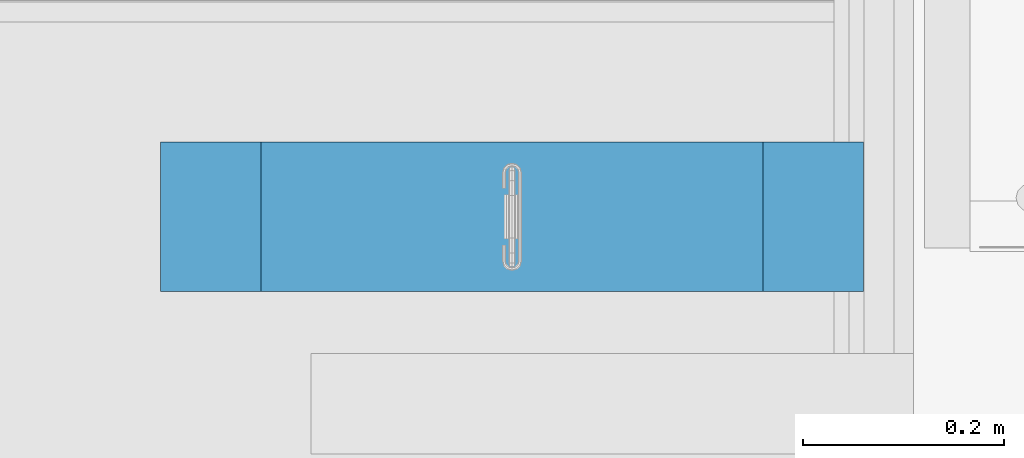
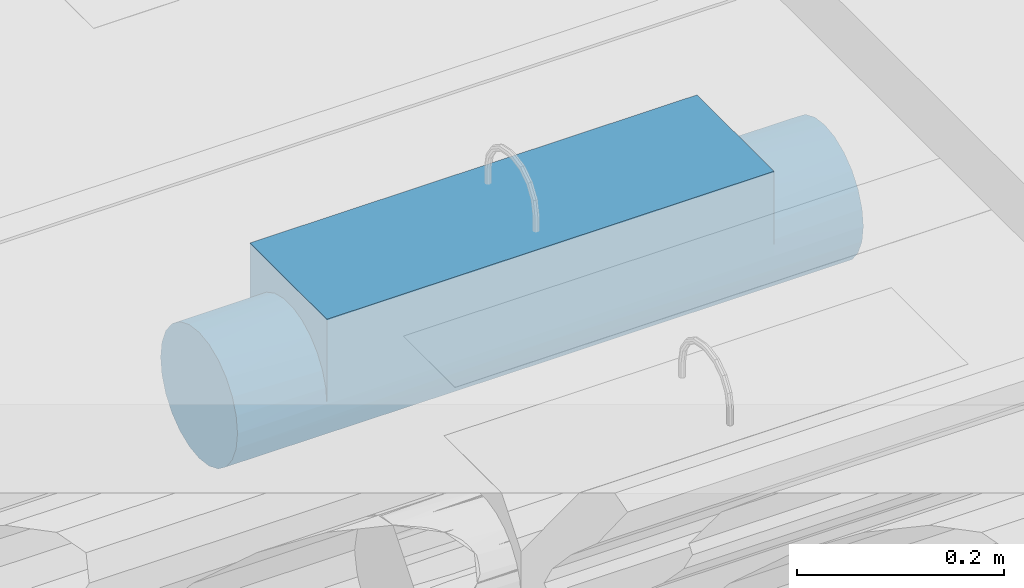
# One storey, part 160 of 230: 1 beam.
"""IFC4X3_ADD2 building model written with IfcOpenShell, lengths in millimetres."""

from ifc_helpers import new_model, si_unit, direction, origin_with_axes, place, context, subcontext, project, spatial, polygons, element, save


model = new_model("IFC4X3_ADD2")

# Units and contexts
model_context = context("Model", 3, precision=1e-05, world=origin_with_axes(), true_north=direction((0.0, 1.0)))
body_context = subcontext(model_context, "Body", "Model", "MODEL_VIEW")
ifc_project = project(units=[si_unit("LENGTHUNIT", "METRE", prefix="MILLI"), si_unit("AREAUNIT", "SQUARE_METRE"), si_unit("VOLUMEUNIT", "CUBIC_METRE"), si_unit("PLANEANGLEUNIT", "RADIAN"), si_unit("TIMEUNIT", "SECOND"), si_unit("MASSUNIT", "GRAM")], contexts=[model_context])

# Site, building, storey
site_placement = place(None, origin_with_axes())
site = spatial("IfcSite", under=ifc_project, at=site_placement, Name="Site", CompositionType="ELEMENT")
building_placement = place(site_placement, origin_with_axes())
building = spatial("IfcBuilding", under=site, at=building_placement, Name="IFC Building Story")
storey_placement = place(building_placement, origin_with_axes())
storey = spatial("IfcBuildingStorey", under=building, at=storey_placement, Name="ETAGE 00 (0)", Elevation=0.0)

# Beam
beam_placement = place(storey_placement, origin_with_axes())
element("IfcBeam", 1, at=beam_placement, inside=storey, Name="ES44", ObjectType="500*149", context=body_context, shape_type="Tessellation", body=[
    polygons([(39700.6922247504, -12625.96122667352, 4119.282009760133), (39600.6922247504, -12626.33491862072, 4117.829005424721), (39700.6922247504, -12628.49975261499, 4099.999990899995), (39700.6922247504, -12618.51864519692, 4137.249990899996), (39600.6922247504, -12619.96622749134, 4134.621865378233), (39600.6922247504, -12596.32057719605, 4161.312288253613), (39700.6922247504, -12606.67920781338, 4152.679446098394), (39700.6922247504, -12591.24975261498, 4164.518883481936), (39600.6922247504, -12580.41781734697, 4169.658700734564), (39700.6922247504, -12573.28177147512, 4171.961464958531), (39600.6922247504, -12609.76380442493, 4149.402627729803), (39600.6922247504, -12628.49975261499, 4099.999987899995), (39600.6922247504, -12562.97973552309, 4173.956801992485), (39700.6922247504, -12553.99975261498, 4174.499990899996), (39600.6922247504, -12545.01976970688, 4173.956801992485), (39700.6922247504, -12534.71773375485, 4171.961464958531), (39700.6922247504, -12516.74975261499, 4164.518883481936), (39600.6922247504, -12527.581687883, 4169.658700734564), (39700.6922247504, -12489.48086003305, 4137.249990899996), (39700.6922247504, -12482.03827855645, 4119.282009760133), (39600.6922247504, -12488.03327773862, 4134.621865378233), (39600.6922247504, -12498.23570080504, 4149.402627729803), (39700.6922247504, -12501.32029741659, 4152.679446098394), (39600.6922247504, -12511.67892803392, 4161.312288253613), (39600.6922247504, -12481.66458660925, 4117.82900542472), (39700.6922247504, -12479.49975261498, 4099.999990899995), (39600.6922247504, -12479.49975261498, 4099.999987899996), (39100.6922247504, -12479.49975261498, 4199.999987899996), (39100.6922247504, -12628.49975261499, 4199.999987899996), (39600.6922247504, -12628.49975261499, 4199.999987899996), (39600.6922247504, -12479.49975261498, 4199.999987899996), (39100.6922247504, -12479.49975261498, 4099.999987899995), (39100.6922247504, -12481.66458660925, 4117.82900542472), (39100.6922247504, -12488.03327773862, 4134.621865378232), (39100.6922247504, -12498.23570080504, 4149.402627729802), (39100.6922247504, -12511.67892803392, 4161.312288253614), (39100.6922247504, -12527.581687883, 4169.658700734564), (39100.6922247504, -12545.01976970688, 4173.956801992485), (39100.6922247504, -12562.97973552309, 4173.956801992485), (39100.6922247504, -12580.41781734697, 4169.658700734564), (39100.6922247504, -12596.32057719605, 4161.312288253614), (39100.6922247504, -12609.76380442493, 4149.402627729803), (39100.6922247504, -12619.96622749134, 4134.621865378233), (39100.6922247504, -12626.33491862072, 4117.829005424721), (39100.6922247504, -12628.49975261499, 4099.999987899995), (39000.6922247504, -12489.48086003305, 4062.749990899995), (39000.6922247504, -12501.32029741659, 4047.320535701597), (39000.6922247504, -12516.74975261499, 4035.481098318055), (39000.6922247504, -12534.71773375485, 4028.03851684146), (39000.6922247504, -12553.99975261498, 4025.499990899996), (39000.6922247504, -12573.28177147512, 4028.03851684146), (39000.6922247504, -12591.24975261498, 4035.481098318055), (39000.6922247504, -12606.67920781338, 4047.320535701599), (39000.6922247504, -12618.51864519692, 4062.749990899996), (39000.6922247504, -12625.96122667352, 4080.717972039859), (39000.6922247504, -12628.49975261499, 4099.999990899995), (39000.6922247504, -12625.96122667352, 4119.282009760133), (39000.6922247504, -12618.51864519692, 4137.249990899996), (39000.6922247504, -12606.67920781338, 4152.679446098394), (39000.6922247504, -12591.24975261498, 4164.518883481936), (39000.6922247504, -12573.28177147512, 4171.961464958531), (39000.6922247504, -12553.99975261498, 4174.499990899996), (39000.6922247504, -12534.71773375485, 4171.961464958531), (39000.6922247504, -12516.74975261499, 4164.518883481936), (39000.6922247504, -12501.32029741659, 4152.679446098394), (39000.6922247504, -12489.48086003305, 4137.249990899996), (39000.6922247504, -12482.03827855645, 4119.282009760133), (39000.6922247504, -12479.49975261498, 4099.999990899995), (39000.6922247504, -12482.03827855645, 4080.717972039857), (39700.6922247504, -12618.51864519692, 4062.749990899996), (39700.6922247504, -12606.67920781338, 4047.320535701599), (39700.6922247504, -12591.24975261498, 4035.481098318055), (39700.6922247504, -12573.28177147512, 4028.03851684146), (39700.6922247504, -12553.99975261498, 4025.499990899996), (39700.6922247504, -12534.71773375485, 4028.03851684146), (39700.6922247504, -12516.74975261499, 4035.481098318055), (39700.6922247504, -12501.32029741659, 4047.320535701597), (39700.6922247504, -12489.48086003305, 4062.749990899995), (39700.6922247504, -12482.03827855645, 4080.717972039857), (39700.6922247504, -12625.96122667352, 4080.717972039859), (39350.6922247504, -12485.17072744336, 4071.490075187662), (39350.6922247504, -12525.48983690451, 4031.170965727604), (39350.6922247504, -12508.64702615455, 4040.89516704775), (39350.6922247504, -12494.89492876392, 4054.647264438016), (39350.6922247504, -12544.27555129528, 4026.137348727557), (39350.6922247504, -12480.68309953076, 4086.774319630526), (39350.6922247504, -12563.72395393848, 4026.137348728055), (39350.6922247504, -12582.50966832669, 4031.170965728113), (39350.6922247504, -12627.31640570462, 4086.774319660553), (39350.6922247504, -12599.35247907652, 4040.895167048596), (39350.6922247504, -12613.10457646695, 4054.647264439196), (39350.6922247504, -12622.82877778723, 4071.490075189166)], [[[1, 2, 3]], [[4, 5, 1]], [[6, 7, 8]], [[9, 8, 10]], [[7, 11, 4]], [[1, 5, 2]], [[2, 12, 3]], [[6, 11, 7]], [[9, 6, 8]], [[10, 13, 9]], [[11, 5, 4]], [[10, 14, 13]], [[15, 14, 16]], [[17, 18, 16]], [[19, 20, 21]], [[22, 23, 19]], [[24, 17, 23]], [[25, 20, 26]], [[16, 18, 15]], [[17, 24, 18]], [[23, 22, 24]], [[19, 21, 22]], [[25, 21, 20]], [[26, 27, 25]], [[14, 15, 13]], [[28, 29, 30, 31]], [[44, 45, 29]], [[29, 43, 44]], [[29, 42, 43]], [[29, 41, 42]], [[29, 40, 41]], [[29, 39, 40]], [[29, 28, 38]], [[29, 38, 39]], [[28, 37, 38]], [[28, 36, 37]], [[28, 35, 36]], [[28, 34, 35]], [[28, 33, 34]], [[28, 32, 33]], [[30, 29, 45, 12]], [[25, 27, 31]], [[31, 21, 25]], [[31, 22, 21]], [[31, 24, 22]], [[31, 18, 24]], [[31, 15, 18]], [[31, 30, 13]], [[31, 13, 15]], [[30, 9, 13]], [[30, 6, 9]], [[30, 11, 6]], [[30, 5, 11]], [[30, 2, 5]], [[30, 12, 2]], [[28, 31, 27, 32]], [[46, 47, 48]], [[46, 48, 49]], [[46, 49, 50]], [[46, 50, 51]], [[46, 51, 52]], [[46, 52, 53]], [[46, 53, 54]], [[46, 54, 55]], [[46, 55, 56]], [[46, 56, 57]], [[46, 57, 58]], [[46, 58, 59]], [[46, 59, 60]], [[46, 60, 61]], [[46, 61, 62]], [[46, 62, 63]], [[46, 63, 64]], [[46, 64, 65]], [[46, 65, 66]], [[46, 66, 67]], [[46, 67, 68]], [[46, 68, 69]], [[70, 71, 72]], [[70, 72, 73]], [[70, 73, 74]], [[70, 74, 75]], [[70, 75, 76]], [[70, 76, 77]], [[70, 77, 78]], [[70, 78, 79]], [[70, 79, 26]], [[70, 26, 20]], [[70, 20, 19]], [[70, 19, 23]], [[70, 23, 17]], [[70, 17, 16]], [[70, 16, 14]], [[70, 14, 10]], [[70, 10, 8]], [[70, 8, 7]], [[70, 7, 4]], [[70, 4, 1]], [[70, 1, 3]], [[70, 3, 80]], [[43, 57, 44]], [[42, 58, 43]], [[40, 60, 41]], [[42, 41, 59]], [[61, 40, 39]], [[44, 56, 45]], [[44, 57, 56]], [[58, 42, 59]], [[41, 60, 59]], [[57, 43, 58]], [[40, 61, 60]], [[39, 62, 61]], [[37, 36, 64]], [[38, 37, 63]], [[35, 34, 66]], [[33, 32, 68]], [[34, 33, 67]], [[36, 35, 65]], [[37, 64, 63]], [[63, 62, 38]], [[64, 36, 65]], [[35, 66, 65]], [[67, 66, 34]], [[67, 33, 68]], [[38, 62, 39]], [[27, 26, 79]], [[78, 81, 79]], [[76, 75, 82]], [[83, 77, 76]], [[84, 78, 77]], [[85, 75, 74]], [[27, 86, 32]], [[86, 81, 69]], [[84, 83, 47]], [[69, 68, 32]], [[81, 86, 79]], [[83, 76, 82]], [[81, 84, 46]], [[46, 69, 81]], [[82, 85, 49]], [[47, 46, 84]], [[47, 83, 48]], [[85, 74, 87]], [[49, 48, 82]], [[84, 77, 83]], [[50, 49, 85]], [[83, 82, 48]], [[72, 88, 73]], [[12, 89, 80]], [[27, 79, 86]], [[71, 90, 72]], [[80, 3, 12]], [[87, 50, 85]], [[71, 70, 91]], [[80, 92, 70]], [[82, 75, 85]], [[88, 87, 73]], [[32, 86, 69]], [[89, 12, 45]], [[87, 88, 51]], [[88, 52, 51]], [[88, 90, 52]], [[52, 90, 53]], [[51, 50, 87]], [[90, 71, 91]], [[55, 54, 92]], [[53, 91, 54]], [[92, 80, 89]], [[56, 55, 45]], [[81, 78, 84]], [[90, 91, 53]], [[55, 92, 89]], [[91, 70, 92]], [[91, 92, 54]], [[87, 74, 73]], [[45, 55, 89]], [[88, 72, 90]]]),
])

save(model, "model.ifc")
